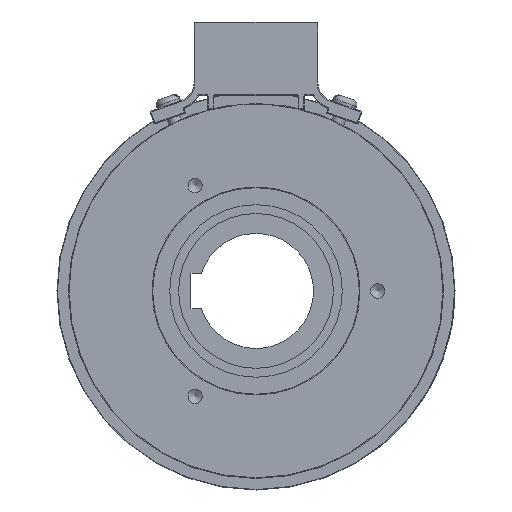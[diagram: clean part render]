
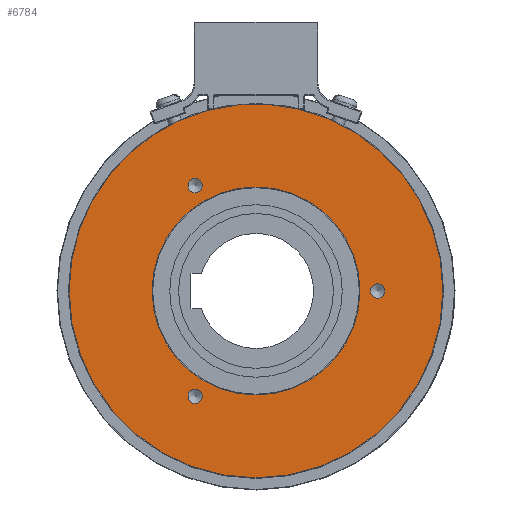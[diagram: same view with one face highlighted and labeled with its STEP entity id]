
A CAD part, left-side view. The second image highlights one B-rep face of the part: STEP entity #6784.
In plain terms, the highlighted planar face has unit normal (-1, 0, 0).
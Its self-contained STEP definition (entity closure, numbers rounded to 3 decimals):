
#647=FACE_BOUND('',#1969,.T.);
#648=FACE_BOUND('',#1970,.T.);
#649=FACE_BOUND('',#1971,.T.);
#650=FACE_BOUND('',#1972,.T.);
#817=CIRCLE('',#7104,42.25);
#818=CIRCLE('',#7105,42.25);
#1027=CIRCLE('',#7503,1.621);
#1028=CIRCLE('',#7504,1.621);
#1031=CIRCLE('',#7509,1.621);
#1032=CIRCLE('',#7510,1.621);
#1035=CIRCLE('',#7515,1.621);
#1036=CIRCLE('',#7516,1.621);
#1053=CIRCLE('',#7544,42.25);
#1054=CIRCLE('',#7546,23.5);
#1055=CIRCLE('',#7547,23.5);
#1545=FACE_OUTER_BOUND('',#1968,.T.);
#1968=EDGE_LOOP('',(#5806,#5807,#5808));
#1969=EDGE_LOOP('',(#5809,#5810));
#1970=EDGE_LOOP('',(#5811,#5812));
#1971=EDGE_LOOP('',(#5813,#5814));
#1972=EDGE_LOOP('',(#5815,#5816));
#2987=VERTEX_POINT('',#10548);
#2992=VERTEX_POINT('',#10558);
#2993=VERTEX_POINT('',#10560);
#3253=VERTEX_POINT('',#11642);
#3254=VERTEX_POINT('',#11643);
#3258=VERTEX_POINT('',#11655);
#3259=VERTEX_POINT('',#11656);
#3263=VERTEX_POINT('',#11668);
#3264=VERTEX_POINT('',#11669);
#3279=VERTEX_POINT('',#11721);
#3280=VERTEX_POINT('',#11722);
#3692=EDGE_CURVE('',#2993,#2992,#817,.T.);
#3693=EDGE_CURVE('',#2987,#2993,#818,.T.);
#4133=EDGE_CURVE('',#3253,#3254,#1027,.T.);
#4134=EDGE_CURVE('',#3254,#3253,#1028,.T.);
#4139=EDGE_CURVE('',#3258,#3259,#1031,.T.);
#4140=EDGE_CURVE('',#3259,#3258,#1032,.T.);
#4145=EDGE_CURVE('',#3263,#3264,#1035,.T.);
#4146=EDGE_CURVE('',#3264,#3263,#1036,.T.);
#4169=EDGE_CURVE('',#2992,#2987,#1053,.T.);
#4170=EDGE_CURVE('',#3279,#3280,#1054,.T.);
#4171=EDGE_CURVE('',#3280,#3279,#1055,.T.);
#5806=ORIENTED_EDGE('',*,*,#3692,.T.);
#5807=ORIENTED_EDGE('',*,*,#4169,.T.);
#5808=ORIENTED_EDGE('',*,*,#3693,.T.);
#5809=ORIENTED_EDGE('',*,*,#4133,.T.);
#5810=ORIENTED_EDGE('',*,*,#4134,.T.);
#5811=ORIENTED_EDGE('',*,*,#4139,.T.);
#5812=ORIENTED_EDGE('',*,*,#4140,.T.);
#5813=ORIENTED_EDGE('',*,*,#4145,.T.);
#5814=ORIENTED_EDGE('',*,*,#4146,.T.);
#5815=ORIENTED_EDGE('',*,*,#4170,.F.);
#5816=ORIENTED_EDGE('',*,*,#4171,.F.);
#6488=PLANE('',#7545);
#6784=ADVANCED_FACE('',(#1545,#647,#648,#649,#650),#6488,.T.);
#7104=AXIS2_PLACEMENT_3D('',#10561,#8329,#8330);
#7105=AXIS2_PLACEMENT_3D('',#10562,#8331,#8332);
#7503=AXIS2_PLACEMENT_3D('',#11644,#9341,#9342);
#7504=AXIS2_PLACEMENT_3D('',#11645,#9343,#9344);
#7509=AXIS2_PLACEMENT_3D('',#11657,#9355,#9356);
#7510=AXIS2_PLACEMENT_3D('',#11658,#9357,#9358);
#7515=AXIS2_PLACEMENT_3D('',#11670,#9369,#9370);
#7516=AXIS2_PLACEMENT_3D('',#11671,#9371,#9372);
#7544=AXIS2_PLACEMENT_3D('',#11719,#9433,#9434);
#7545=AXIS2_PLACEMENT_3D('',#11720,#9435,#9436);
#7546=AXIS2_PLACEMENT_3D('',#11723,#9437,#9438);
#7547=AXIS2_PLACEMENT_3D('',#11724,#9439,#9440);
#8329=DIRECTION('center_axis',(-1.,0.,0.));
#8330=DIRECTION('ref_axis',(0.,1.,0.));
#8331=DIRECTION('center_axis',(-1.,0.,0.));
#8332=DIRECTION('ref_axis',(0.,1.,0.));
#9341=DIRECTION('center_axis',(1.,0.,0.));
#9342=DIRECTION('ref_axis',(0.,0.,1.));
#9343=DIRECTION('center_axis',(1.,0.,0.));
#9344=DIRECTION('ref_axis',(0.,0.,1.));
#9355=DIRECTION('center_axis',(1.,0.,0.));
#9356=DIRECTION('ref_axis',(0.,0.,1.));
#9357=DIRECTION('center_axis',(1.,0.,0.));
#9358=DIRECTION('ref_axis',(0.,0.,1.));
#9369=DIRECTION('center_axis',(1.,0.,0.));
#9370=DIRECTION('ref_axis',(0.,0.,1.));
#9371=DIRECTION('center_axis',(1.,0.,0.));
#9372=DIRECTION('ref_axis',(0.,0.,1.));
#9433=DIRECTION('center_axis',(-1.,0.,0.));
#9434=DIRECTION('ref_axis',(0.,1.,0.));
#9435=DIRECTION('center_axis',(-1.,0.,0.));
#9436=DIRECTION('ref_axis',(0.,0.,1.));
#9437=DIRECTION('center_axis',(-1.,0.,0.));
#9438=DIRECTION('ref_axis',(0.,1.,0.));
#9439=DIRECTION('center_axis',(-1.,0.,0.));
#9440=DIRECTION('ref_axis',(0.,1.,0.));
#10548=CARTESIAN_POINT('',(-14.05,-9.654,41.132));
#10558=CARTESIAN_POINT('',(-14.05,-42.25,0.));
#10560=CARTESIAN_POINT('',(-14.05,42.25,0.));
#10561=CARTESIAN_POINT('Origin',(-14.05,0.,0.));
#10562=CARTESIAN_POINT('Origin',(-14.05,0.,0.));
#11642=CARTESIAN_POINT('',(-14.05,13.75,25.437));
#11643=CARTESIAN_POINT('',(-14.05,13.75,22.195));
#11644=CARTESIAN_POINT('Origin',(-14.05,13.75,23.816));
#11645=CARTESIAN_POINT('Origin',(-14.05,13.75,23.816));
#11655=CARTESIAN_POINT('',(-14.05,-27.5,1.621));
#11656=CARTESIAN_POINT('',(-14.05,-27.5,-1.621));
#11657=CARTESIAN_POINT('Origin',(-14.05,-27.5,0.));
#11658=CARTESIAN_POINT('Origin',(-14.05,-27.5,0.));
#11668=CARTESIAN_POINT('',(-14.05,13.75,-22.195));
#11669=CARTESIAN_POINT('',(-14.05,13.75,-25.437));
#11670=CARTESIAN_POINT('Origin',(-14.05,13.75,-23.816));
#11671=CARTESIAN_POINT('Origin',(-14.05,13.75,-23.816));
#11719=CARTESIAN_POINT('Origin',(-14.05,0.,0.));
#11720=CARTESIAN_POINT('Origin',(-14.05,32.875,0.));
#11721=CARTESIAN_POINT('',(-14.05,23.5,0.));
#11722=CARTESIAN_POINT('',(-14.05,-23.5,0.));
#11723=CARTESIAN_POINT('Origin',(-14.05,0.,0.));
#11724=CARTESIAN_POINT('Origin',(-14.05,0.,0.));
